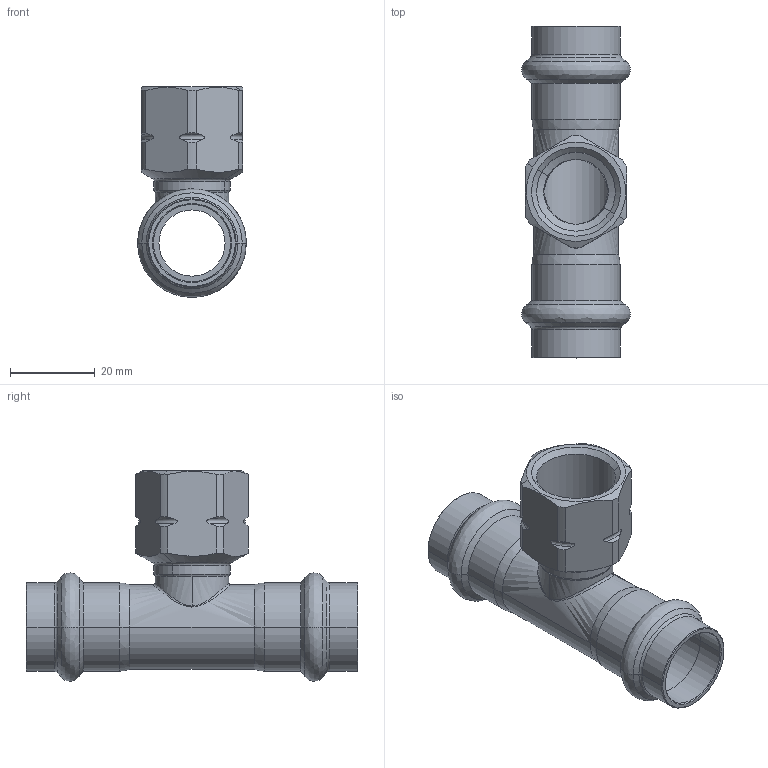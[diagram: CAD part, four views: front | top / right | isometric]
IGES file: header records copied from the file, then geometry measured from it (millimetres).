
Start section: Elysium IGES Interface
Global section: file name: C:\3d modellen sudo\C-Pr VP\SP8130GV\8130GVW181218.igs; native system: CoCreate Modeling 17.00A  17-Jun-2010; preprocessor: CoCreate IGES_3D V2.2; author: Unknown; organization: Unknown; date: 20130131.152208; units: millimetre
Bounding box: 25.7 x 78.51 x 49.84 mm (x, y, z)
Volume: 12694.8 mm3; surface area: 13954.4 mm2
Topology: 1 solids, 1 shells, 137 faces, 322 edges, 192 vertices
Faces by surface type: bspline 137
